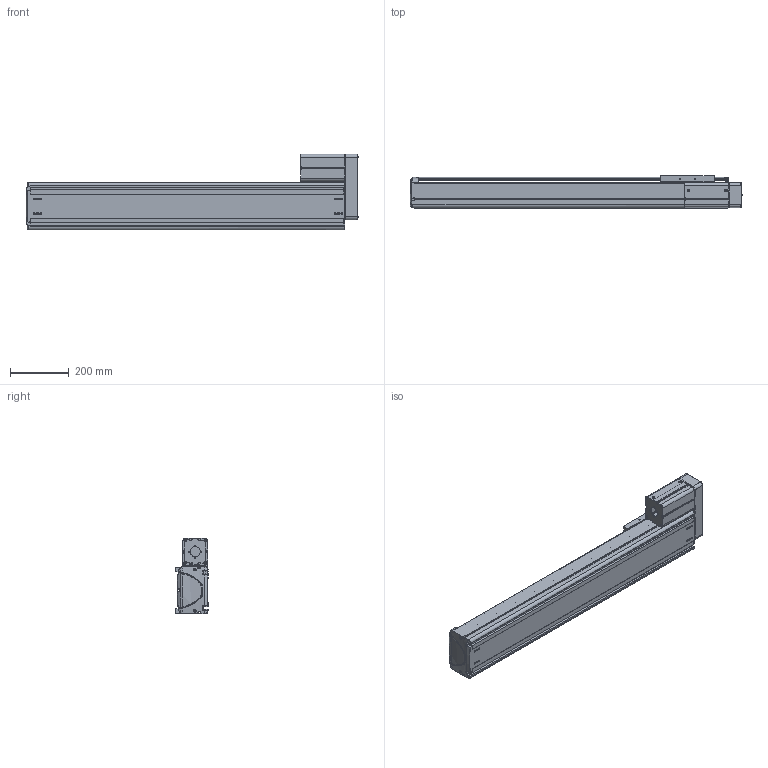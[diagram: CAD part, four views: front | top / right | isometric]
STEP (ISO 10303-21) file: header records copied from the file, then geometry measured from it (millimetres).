
FILE_DESCRIPTION((''),'2;1');
FILE_NAME('BE50F-UR-M_N-80_IGS_PRT','2017-06-18T',(' '),(''),'PRO/ENGINEER BY PARAMETRIC TECHNOLOGY CORPORATION, 2015030','PRO/ENGINEER BY PARAMETRIC TECHNOLOGY CORPORATION, 2015030','');
FILE_SCHEMA(('CONFIG_CONTROL_DESIGN'));
Length unit declared in the file: millimetre
Products named in the file (1): BE50F-UR-M_N-80_IGS_PRT
Bounding box: 1125.88 x 110 x 257 mm (x, y, z)
Volume: 5312834.3 mm3; surface area: 1950775.1 mm2
Topology: 2 solids, 125 shells, 2205 faces, 6006 edges, 3922 vertices
Faces by surface type: plane 1010, cylinder 931, cone 125, torus 59, bspline 48, sphere 32
Entity records: 73032 total; most frequent: CARTESIAN_POINT 16668, DIRECTION 11801, ORIENTED_EDGE 11464, EDGE_CURVE 5964, AXIS2_PLACEMENT_3D 4201, VERTEX_POINT 3916, VECTOR 3399, LINE 3399
